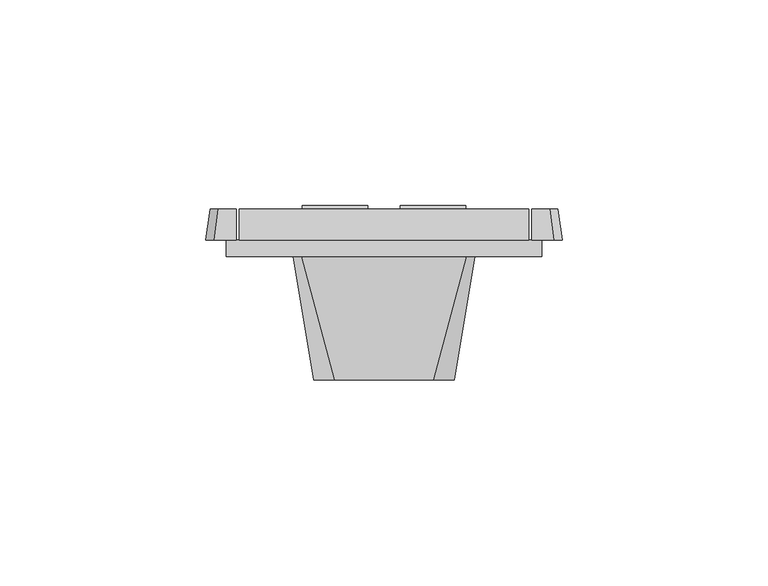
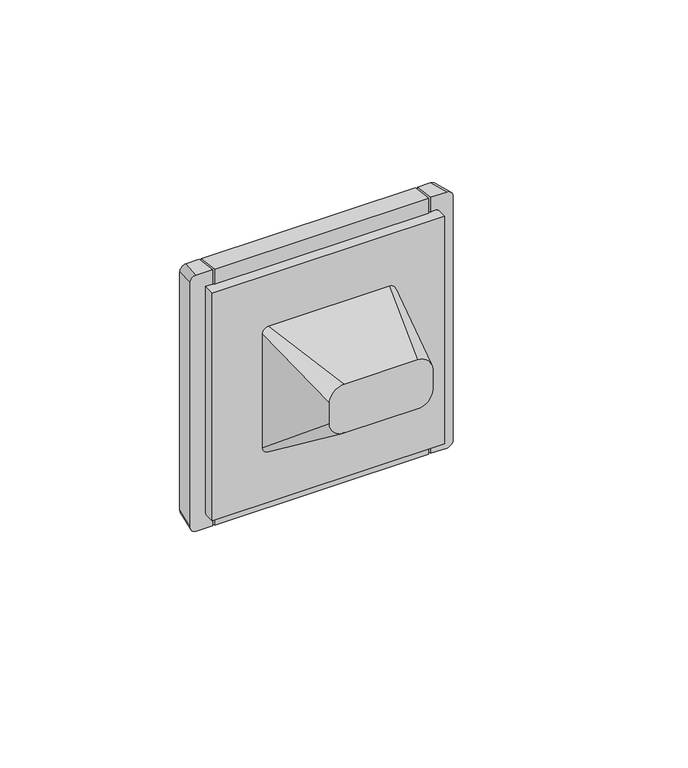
"""IFC4 building model written with IfcOpenShell, lengths in millimetres: proxy geometry, IEK_Forte&Piano_Розекта информационная : 2хRJ45 к5E_FP133."""

from ifc_helpers import new_model, si_unit, point, frame, origin, place, context, project, spatial, polyline, circle_curve, trimmed, outline, extrude, faceted_brep, source, transform, mapped, element, save
from ifc_brep_helpers import plane_surface, extruded_surface, spline_surface, advanced_brep


def electrical_fixtures_5ba0617b(model_context):
    return source(origin(), model_context, "Body", "SolidModel", [
        faceted_brep([(-22.7, 11.5, 22.7), (22.7, 11.5, 22.7), (22.7, 11.5, -22.7), (-22.7, 11.5, -22.7), (22.0, 11.5, -10.479217), (22.0, 11.5, 10.625), (19.9013368, 11.5, 10.625), (3.9809845, 11.5, 10.625), (-3.9809845, 11.5, 10.625), (-19.9013368, 11.5, 10.625), (-22.0, 11.5, 10.625), (-22.0, 11.5, -10.479217), (-22.7, 4.0, 22.7), (-22.7, 4.0, -22.7), (22.7, 4.0, -22.7), (22.7, 4.0, 22.7), (22.0, 5.8684205, -4.8476375), (-22.0, 5.8684205, -4.8476375), (-19.9013368, 6.6767352, -2.626811), (-3.9809845, 6.6767352, -2.626811), (3.9809845, 6.6767352, -2.626811), (19.9013368, 6.6767352, -2.626811), (19.9013368, 5.7370426, -2.2847909), (3.9809845, 5.7370426, -2.2847909), (3.9809845, 10.5603074, 10.9670201), (19.9013368, 10.5603074, 10.9670201), (-19.9013368, 5.7370426, -2.2847909), (-19.9013368, 10.5603074, 10.9670201), (-3.9809845, 10.5603074, 10.9670201), (-3.9809845, 5.7370426, -2.2847909)], [[[0, 1, 2, 3], [4, 5, 6, 7, 8, 9, 10, 11]], [[12, 13, 14, 15]], [[0, 3, 13, 12]], [[3, 2, 14, 13]], [[2, 1, 15, 14]], [[1, 0, 12, 15]], [[16, 4, 11, 17]], [[5, 16, 17, 10, 9, 18, 19, 8, 7, 20, 21, 6]], [[16, 5, 4]], [[17, 11, 10]], [[22, 23, 24, 25]], [[22, 25, 6, 21]], [[25, 24, 7, 6]], [[24, 23, 20, 7]], [[23, 22, 21, 20]], [[26, 27, 28, 29]], [[27, 26, 18, 9]], [[28, 27, 9, 8]], [[29, 28, 8, 19]], [[26, 29, 19, 18]]]),
        extrude(outline(polyline([(0.0, -2.0472767), (0.0, 0.0), (15.9203523, 0.0), (15.9203523, -2.0472767), (0.0, -2.0472767)])), frame((-3.9809845, 9.9780014, 9.3671478), z_axis=(0.0, 0.3420201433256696, 0.9396926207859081), x_axis=(-1.0, 0.0, 0.0)), (0.0, 0.0, 1.0), 1.1350324),
        extrude(outline(polyline([(0.0, -2.0472767), (0.0, 0.0), (15.9203523, 0.0), (15.9203523, -2.0472767), (0.0, -2.0472767)])), frame((3.9809845, 11.9018122, 8.6669379), z_axis=(0.0, 0.3420201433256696, 0.9396926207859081), x_axis=(1.0, 0.0, 0.0)), (0.0, 0.0, 1.0), 1.1350324),
        faceted_brep([(35.2, 11.5, 43.5), (35.2, 4.0, 44.5), (35.2, 4.0, -44.5), (35.2, 11.5, -43.5), (-35.2, 11.5, 43.5), (-35.2, 11.5, -43.5), (-35.2, 4.0, -44.5), (-35.2, 4.0, 44.5), (-23.5, 4.0, 23.5), (23.5, 4.0, 23.5), (23.5, 4.0, -23.5), (-23.5, 4.0, -23.5), (23.5, 11.5, 23.5), (-23.5, 11.5, 23.5), (-23.5, 11.5, -23.5), (23.5, 11.5, -23.5)], [[[0, 1, 2, 3]], [[4, 5, 6, 7]], [[1, 0, 4, 7]], [[2, 1, 7, 6], [8, 9, 10, 11]], [[3, 2, 6, 5]], [[0, 3, 5, 4], [12, 13, 14, 15]], [[8, 13, 12, 9]], [[9, 12, 15, 10]], [[10, 15, 14, 11]], [[13, 8, 11, 14]]]),
        advanced_brep(
        [(35.8576533, 11.5, 43.5), (35.8576533, 11.5, -43.5), (35.8576533, 4.0, -44.5), (35.8576533, 4.0, -39.5), (35.8576533, 4.0, 39.5), (35.8576533, 4.0, 44.5), (-35.8576533, 11.5, -43.5), (-35.8576533, 11.5, 43.5), (-35.8576533, 4.0, 44.5), (-35.8576533, 4.0, 39.5), (-35.8576533, 4.0, -39.5), (-35.8576533, 4.0, -44.5), (40.25, 11.5, 43.5), (42.25, 11.5, 41.5), (42.25, 11.5, -41.5), (40.25, 11.5, -43.5), (-40.25, 11.5, -43.5), (-42.25, 11.5, -41.5), (-42.25, 11.5, 41.5), (-40.25, 11.5, 43.5), (-41.25, 4.0, 44.5), (-43.25, 4.0, 42.5), (-43.25, 4.0, -42.5), (-41.25, 4.0, -44.5), (-38.25, 4.0, -39.5), (-38.25, 4.0, 39.5), (41.25, 4.0, -44.5), (43.25, 4.0, -42.5), (43.25, 4.0, 42.5), (41.25, 4.0, 44.5), (38.25, 4.0, 39.5), (38.25, 4.0, -39.5), (-38.25, 0.0, 39.5), (-38.25, 0.0, -39.5), (38.25, 0.0, -39.5), (38.25, 0.0, 39.5)],
        [
            (0, 1),
            (1, 2),
            (2, 3),
            (3, 4),
            (4, 5),
            (5, 0),
            (6, 7),
            (7, 8),
            (8, 9),
            (9, 10),
            (10, 11),
            (11, 6),
            (12, 13, circle_curve(frame((40.25, 11.5, 41.5), z_axis=(0.0, 1.0, 0.0), x_axis=(-1.0, 0.0, 0.0)), 2.0)),
            (13, 14),
            (14, 15, circle_curve(frame((40.25, 11.5, -41.5), z_axis=(0.0, 1.0, 0.0), x_axis=(-1.0, 0.0, 0.0)), 2.0)),
            (15, 1),
            (0, 12),
            (16, 17, circle_curve(frame((-40.25, 11.5, -41.5), z_axis=(0.0, 1.0, 0.0), x_axis=(-1.0, 0.0, 0.0)), 2.0)),
            (17, 18),
            (18, 19, circle_curve(frame((-40.25, 11.5, 41.5), z_axis=(0.0, 1.0, 0.0), x_axis=(-1.0, 0.0, 0.0)), 2.0)),
            (19, 7),
            (6, 16),
            (20, 21, circle_curve(frame((-41.25, 4.0, 42.5), z_axis=(0.0, -1.0, 0.0), x_axis=(-1.0, 0.0, 0.0)), 2.0)),
            (21, 22),
            (22, 23, circle_curve(frame((-41.25, 4.0, -42.5), z_axis=(0.0, -1.0, 0.0), x_axis=(-1.0, 0.0, 0.0)), 2.0)),
            (23, 11),
            (10, 24),
            (24, 25),
            (25, 9),
            (8, 20),
            (26, 27, circle_curve(frame((41.25, 4.0, -42.5), z_axis=(0.0, -1.0, 0.0), x_axis=(-1.0, 0.0, 0.0)), 2.0)),
            (27, 28),
            (28, 29, circle_curve(frame((41.25, 4.0, 42.5), z_axis=(0.0, -1.0, 0.0), x_axis=(-1.0, 0.0, 0.0)), 2.0)),
            (29, 5),
            (4, 30),
            (30, 31),
            (31, 3),
            (2, 26),
            (29, 12),
            (19, 20),
            (28, 13),
            (27, 14),
            (26, 15),
            (23, 16),
            (22, 17),
            (21, 18),
            (3, 10),
            (9, 4),
            (32, 33),
            (33, 34),
            (34, 35),
            (35, 32),
            (32, 25),
            (24, 33),
            (31, 34),
            (30, 35),
        ],
        [
            plane_surface(frame((35.8576533, 11.5, 44.5), z_axis=(-1.0, 0.0, 0.0), x_axis=(0.0, -1.0, 0.0))),
            plane_surface(frame((-35.8576533, 11.5, -44.5), z_axis=(1.0, 0.0, 0.0), x_axis=(0.0, -1.0, 0.0))),
            plane_surface(frame((0.0, 11.5, 0.0), z_axis=(0.0, 1.0, 0.0), x_axis=(1.0, 0.0, 0.0))),
            plane_surface(frame((0.0, 4.0, 0.0), z_axis=(0.0, -1.0, 0.0), x_axis=(1.0, 0.0, 0.0))),
            plane_surface(frame((0.0, 4.0, 44.5), z_axis=(0.0, 0.13216372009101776, 0.9912279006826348), x_axis=(1.0, 0.0, 0.0))),
            extruded_surface(trimmed(circle_curve(frame((41.25, 4.0, 42.5), z_axis=(0.0, 1.0, 0.0), x_axis=(-1.0, 0.0, 0.0)), 2.0), [point((41.25, 4.0, 44.5))], [point((43.25, 4.0, 42.5))], True, "CARTESIAN"), (-1.0, 7.5, -1.0), 7.632168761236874),
            plane_surface(frame((43.25, 4.0, 0.0), z_axis=(0.9912279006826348, 0.13216372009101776, 0.0), x_axis=(0.0, 0.0, -1.0))),
            extruded_surface(trimmed(circle_curve(frame((41.25, 4.0, -42.5), z_axis=(0.0, 1.0, 0.0), x_axis=(-1.0, 0.0, 0.0)), 2.0), [point((43.25, 4.0, -42.5))], [point((41.25, 4.0, -44.5))], True, "CARTESIAN"), (-1.0, 7.5, 1.0), 7.632168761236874),
            plane_surface(frame((0.0, 4.0, -44.5), z_axis=(0.0, 0.13216372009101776, -0.9912279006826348), x_axis=(-1.0, 0.0, 0.0))),
            extruded_surface(trimmed(circle_curve(frame((-41.25, 4.0, -42.5), z_axis=(0.0, 1.0, 0.0), x_axis=(-1.0, 0.0, 0.0)), 2.0), [point((-41.25, 4.0, -44.5))], [point((-43.25, 4.0, -42.5))], True, "CARTESIAN"), (1.0, 7.5, 1.0), 7.632168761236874),
            plane_surface(frame((-43.25, 4.0, 0.0), z_axis=(-0.9912279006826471, 0.13216372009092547, 0.0), x_axis=(0.0, 0.0, 1.0))),
            extruded_surface(trimmed(circle_curve(frame((-41.25, 4.0, 42.5), z_axis=(0.0, 1.0, 0.0), x_axis=(-1.0, 0.0, 0.0)), 2.0), [point((-43.25, 4.0, 42.5))], [point((-41.25, 4.0, 44.5))], True, "CARTESIAN"), (1.0, 7.5, -1.0), 7.632168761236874),
            plane_surface(frame((-38.25, 4.0, 39.5), z_axis=(0.0, 1.0, 0.0), x_axis=(0.0, 0.0, 1.0))),
            plane_surface(frame((-38.25, 0.0, 39.5), z_axis=(0.0, -1.0, 0.0), x_axis=(0.0, 0.0, -1.0))),
            plane_surface(frame((-38.25, 0.0, 39.5), z_axis=(-1.0, 0.0, 0.0), x_axis=(0.0, 1.0, 0.0))),
            plane_surface(frame((-38.25, 0.0, -39.5), z_axis=(0.0, 0.0, -1.0), x_axis=(0.0, 1.0, 0.0))),
            plane_surface(frame((38.25, 0.0, -39.5), z_axis=(1.0, 0.0, 0.0), x_axis=(0.0, 1.0, 0.0))),
            plane_surface(frame((38.25, 0.0, 39.5), z_axis=(0.0, 0.0, 1.0), x_axis=(0.0, 1.0, 0.0))),
        ],
        [
            (0, [[1, 2, 3, 4, 5, 6]]),
            (1, [[7, 8, 9, 10, 11, 12]]),
            (2, [[13, 14, 15, 16, -1, 17]]),
            (2, [[18, 19, 20, 21, -7, 22]]),
            (3, [[23, 24, 25, 26, -11, 27, 28, 29, -9, 30]]),
            (3, [[31, 32, 33, 34, -5, 35, 36, 37, -3, 38]]),
            (4, [[39, -17, -6, -34]]),
            (4, [[40, -30, -8, -21]]),
            (5, [[-13, -39, -33, 41]]),
            (6, [[-14, -41, -32, 42]]),
            (7, [[-15, -42, -31, 43]]),
            (8, [[-43, -38, -2, -16]]),
            (8, [[44, -22, -12, -26]]),
            (9, [[-18, -44, -25, 45]]),
            (10, [[-19, -45, -24, 46]]),
            (11, [[-20, -46, -23, -40]]),
            (12, [[47, -10, 48, -4]]),
            (13, [[49, 50, 51, 52]]),
            (14, [[-49, 53, -28, 54]]),
            (15, [[-50, -54, -27, -47, -37, 55]]),
            (16, [[-51, -55, -36, 56]]),
            (17, [[-52, -56, -35, -48, -29, -53]]),
        ],
    ),
        advanced_brep(
        [(-12.0, -30.0, 17.0), (-17.0, -30.0, 12.0), (-17.0, -30.0, 5.0), (-12.0, -30.0, 0.0), (12.0, -30.0, 0.0), (17.0, -30.0, 5.0), (17.0, -30.0, 12.0), (12.0, -30.0, 17.0), (-20.0, 0.0, 22.0), (20.0, 0.0, 22.0), (22.0, 0.0, 20.0), (22.0, 0.0, -20.0), (20.0, 0.0, -22.0), (-20.0, 0.0, -22.0), (-22.0, 0.0, -20.0), (-22.0, 0.0, 20.0)],
        [
            (0, 1, circle_curve(frame((-12.0, -30.0, 12.0), z_axis=(0.0, -1.0, 0.0), x_axis=(1.0, 0.0, 0.0)), 5.0)),
            (1, 2),
            (2, 3, circle_curve(frame((-12.0, -30.0, 5.0), z_axis=(0.0, -1.0, 0.0), x_axis=(1.0, 0.0, 0.0)), 5.0)),
            (3, 4),
            (4, 5, circle_curve(frame((12.0, -30.0, 5.0), z_axis=(0.0, -1.0, 0.0), x_axis=(1.0, 0.0, 0.0)), 5.0)),
            (5, 6),
            (6, 7, circle_curve(frame((12.0, -30.0, 12.0), z_axis=(0.0, -1.0, 0.0), x_axis=(1.0, 0.0, 0.0)), 5.0)),
            (7, 0),
            (8, 9),
            (9, 10, circle_curve(frame((20.0, 0.0, 20.0), z_axis=(0.0, 1.0, 0.0), x_axis=(1.0, 0.0, 0.0)), 2.0)),
            (10, 11),
            (11, 12, circle_curve(frame((20.0, 0.0, -20.0), z_axis=(0.0, 1.0, 0.0), x_axis=(1.0, 0.0, 0.0)), 2.0)),
            (12, 13),
            (13, 14, circle_curve(frame((-20.0, 0.0, -20.0), z_axis=(0.0, 1.0, 0.0), x_axis=(1.0, 0.0, 0.0)), 2.0)),
            (14, 15),
            (15, 8, circle_curve(frame((-20.0, 0.0, 20.0), z_axis=(0.0, 1.0, 0.0), x_axis=(1.0, 0.0, 0.0)), 2.0)),
            (8, 0),
            (7, 9),
            (6, 10),
            (5, 11),
            (4, 12),
            (3, 13),
            (2, 14),
            (1, 15),
        ],
        [
            plane_surface(frame((0.0, -30.0, 8.5), z_axis=(0.0, -1.0, 0.0), x_axis=(-1.0, 0.0, 0.0))),
            plane_surface(frame((0.0, 0.0, 0.0), z_axis=(0.0, 1.0, 0.0), x_axis=(-1.0, 0.0, 0.0))),
            plane_surface(frame((0.0, 0.0, 22.0), z_axis=(0.0, -0.16439898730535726, 0.9863939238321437), x_axis=(-1.0, 0.0, 0.0))),
            spline_surface(2, 1, [[(22.0, 0.0, 20.0), (17.0, -30.0, 12.0)], [(22.0, 0.0, 22.0), (17.0, -30.0, 17.0)], [(20.0, 0.0, 22.0), (12.0, -30.0, 17.0)]], [3, 3], [2, 2], [0.0, 1.0], [0.0, 1.0], weights=[[1.0, 1.0], [0.7071067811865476, 0.7071067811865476], [1.0, 1.0]]),
            plane_surface(frame((22.0, 0.0, 0.0), z_axis=(0.9863939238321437, -0.1643989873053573, 0.0), x_axis=(0.0, 0.0, 1.0))),
            spline_surface(2, 1, [[(20.0, 0.0, -22.0), (12.0, -30.0, 0.0)], [(22.0, 0.0, -22.0), (17.0, -30.0, 0.0)], [(22.0, 0.0, -20.0), (17.0, -30.0, 5.0)]], [3, 3], [2, 2], [0.0, 1.0], [0.0, 1.0], weights=[[1.0, 1.0], [0.7071067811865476, 0.7071067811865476], [1.0, 1.0]]),
            plane_surface(frame((0.0, 0.0, -22.0), z_axis=(0.0, -0.591363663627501, -0.8064049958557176), x_axis=(1.0, 0.0, 0.0))),
            spline_surface(2, 1, [[(-22.0, 0.0, -20.0), (-17.0, -30.0, 5.0)], [(-22.0, 0.0, -22.0), (-17.0, -30.0, 0.0)], [(-20.0, 0.0, -22.0), (-12.0, -30.0, 0.0)]], [3, 3], [2, 2], [0.0, 1.0], [0.0, 1.0], weights=[[1.0, 1.0], [0.7071067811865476, 0.7071067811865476], [1.0, 1.0]]),
            plane_surface(frame((-22.0, 0.0, 0.0), z_axis=(-0.9863939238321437, -0.1643989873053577, 0.0), x_axis=(0.0, 0.0, -1.0))),
            spline_surface(2, 1, [[(-20.0, 0.0, 22.0), (-12.0, -30.0, 17.0)], [(-22.0, 0.0, 22.0), (-17.0, -30.0, 17.0)], [(-22.0, 0.0, 20.0), (-17.0, -30.0, 12.0)]], [3, 3], [2, 2], [0.0, 1.0], [0.0, 1.0], weights=[[1.0, 1.0], [0.7071067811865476, 0.7071067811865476], [1.0, 1.0]]),
        ],
        [
            (0, [[1, 2, 3, 4, 5, 6, 7, 8]]),
            (1, [[9, 10, 11, 12, 13, 14, 15, 16]]),
            (2, [[-9, 17, -8, 18]]),
            (3, [[-10, -18, -7, 19]]),
            (4, [[-11, -19, -6, 20]]),
            (5, [[-12, -20, -5, 21]]),
            (6, [[-13, -21, -4, 22]]),
            (7, [[-14, -22, -3, 23]]),
            (8, [[-15, -23, -2, 24]]),
            (9, [[-16, -24, -1, -17]]),
        ],
    ),
    ])


if __name__ == "__main__":
    model = new_model("IFC4")
    model_context = context("Model", 3, world=origin())
    ifc_project = project(units=[si_unit("LENGTHUNIT", "METRE", prefix="MILLI")], contexts=[model_context])
    site = spatial("IfcSite", under=ifc_project)
    building = spatial("IfcBuilding", under=site)
    placement = place(None, origin())
    electrical_fixtures_shape = electrical_fixtures_5ba0617b(model_context)
    element("IfcBuildingElementProxy", 1, Name="IEK_Forte&Piano_Розекта информационная : 2хRJ45 к5E_FP133", ObjectType="IEK_Forte&Piano_Розекта информационная : 2хRJ45 к5E_FP133", at=placement, inside=building, context=model_context, shape_type="MappedRepresentation", body=[
        mapped(electrical_fixtures_shape, transform((0.0, 0.0, 0.0), x_axis=(1.0, 0.0, 0.0), y_axis=(0.0, 1.0, 0.0), z_axis=(0.0, 0.0, 1.0))),
    ])
    save(model, "model.ifc")
